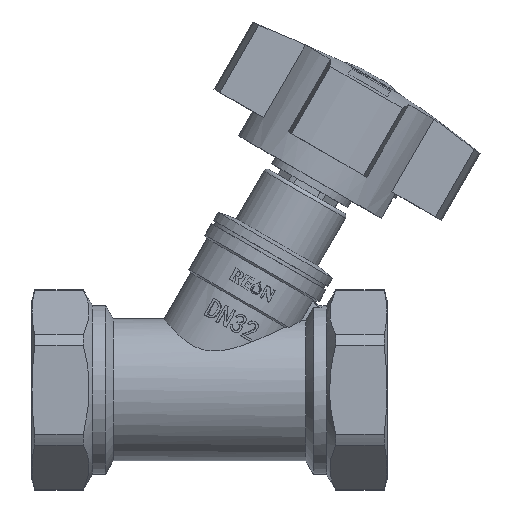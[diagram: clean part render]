
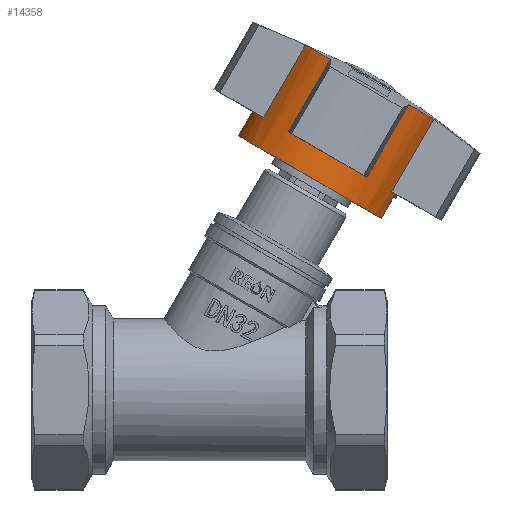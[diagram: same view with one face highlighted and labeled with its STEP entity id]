
A CAD part, top view. The second image highlights one B-rep face of the part: STEP entity #14358.
In plain terms, the highlighted cylindrical face has radius 23 mm (diameter 46 mm), a partial arc.
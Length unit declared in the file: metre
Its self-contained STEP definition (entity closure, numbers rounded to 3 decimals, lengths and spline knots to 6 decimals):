
#1460=CIRCLE('',#15448,0.023);
#1464=CIRCLE('',#15452,0.023);
#1468=CIRCLE('',#15456,0.023);
#1472=CIRCLE('',#15460,0.023);
#1550=CIRCLE('',#15559,0.023);
#1553=CIRCLE('',#15563,0.023);
#1556=CIRCLE('',#15567,0.023);
#1557=CIRCLE('',#15568,0.023);
#1561=CIRCLE('',#15574,0.023);
#1564=CIRCLE('',#15578,0.023);
#2260=FACE_OUTER_BOUND('',#3166,.T.);
#3166=EDGE_LOOP('',(#11583,#11584,#11585,#11586,#11587,#11588,#11589,#11590,
#11591,#11592,#11593,#11594,#11595,#11596,#11597,#11598,#11599,#11600,#11601,
#11602));
#4262=LINE('',#42724,#5135);
#4263=LINE('',#42727,#5136);
#4264=LINE('',#42728,#5137);
#4265=LINE('',#42729,#5138);
#4266=LINE('',#42730,#5139);
#4267=LINE('',#42731,#5140);
#4268=LINE('',#42732,#5141);
#4269=LINE('',#42733,#5142);
#4270=LINE('',#42734,#5143);
#4271=LINE('',#42735,#5144);
#5135=VECTOR('',#18246,1.);
#5136=VECTOR('',#18249,1.);
#5137=VECTOR('',#18250,1.);
#5138=VECTOR('',#18251,1.);
#5139=VECTOR('',#18252,1.);
#5140=VECTOR('',#18253,1.);
#5141=VECTOR('',#18254,1.);
#5142=VECTOR('',#18255,1.);
#5143=VECTOR('',#18256,1.);
#5144=VECTOR('',#18257,1.);
#6286=VERTEX_POINT('',#42376);
#6287=VERTEX_POINT('',#42378);
#6290=VERTEX_POINT('',#42384);
#6291=VERTEX_POINT('',#42386);
#6294=VERTEX_POINT('',#42392);
#6295=VERTEX_POINT('',#42394);
#6298=VERTEX_POINT('',#42400);
#6299=VERTEX_POINT('',#42402);
#6414=VERTEX_POINT('',#42656);
#6415=VERTEX_POINT('',#42658);
#6420=VERTEX_POINT('',#42670);
#6421=VERTEX_POINT('',#42672);
#6426=VERTEX_POINT('',#42684);
#6427=VERTEX_POINT('',#42686);
#6428=VERTEX_POINT('',#42689);
#6429=VERTEX_POINT('',#42691);
#6436=VERTEX_POINT('',#42709);
#6437=VERTEX_POINT('',#42711);
#6442=VERTEX_POINT('',#42723);
#6443=VERTEX_POINT('',#42725);
#8113=EDGE_CURVE('',#6287,#6286,#1460,.T.);
#8117=EDGE_CURVE('',#6291,#6290,#1464,.T.);
#8121=EDGE_CURVE('',#6295,#6294,#1468,.T.);
#8125=EDGE_CURVE('',#6299,#6298,#1472,.T.);
#8244=EDGE_CURVE('',#6415,#6414,#1550,.T.);
#8251=EDGE_CURVE('',#6421,#6420,#1553,.T.);
#8258=EDGE_CURVE('',#6427,#6426,#1556,.T.);
#8261=EDGE_CURVE('',#6429,#6428,#1557,.T.);
#8272=EDGE_CURVE('',#6436,#6437,#1561,.T.);
#8277=EDGE_CURVE('',#6442,#6426,#4262,.T.);
#8278=EDGE_CURVE('',#6443,#6442,#1564,.T.);
#8279=EDGE_CURVE('',#6429,#6443,#4263,.T.);
#8280=EDGE_CURVE('',#6299,#6428,#4264,.T.);
#8281=EDGE_CURVE('',#6298,#6421,#4265,.T.);
#8282=EDGE_CURVE('',#6295,#6420,#4266,.T.);
#8283=EDGE_CURVE('',#6294,#6415,#4267,.T.);
#8284=EDGE_CURVE('',#6291,#6414,#4268,.T.);
#8285=EDGE_CURVE('',#6290,#6436,#4269,.T.);
#8286=EDGE_CURVE('',#6287,#6437,#4270,.T.);
#8287=EDGE_CURVE('',#6286,#6427,#4271,.T.);
#11583=ORIENTED_EDGE('',*,*,#8277,.F.);
#11584=ORIENTED_EDGE('',*,*,#8278,.F.);
#11585=ORIENTED_EDGE('',*,*,#8279,.F.);
#11586=ORIENTED_EDGE('',*,*,#8261,.T.);
#11587=ORIENTED_EDGE('',*,*,#8280,.F.);
#11588=ORIENTED_EDGE('',*,*,#8125,.T.);
#11589=ORIENTED_EDGE('',*,*,#8281,.T.);
#11590=ORIENTED_EDGE('',*,*,#8251,.T.);
#11591=ORIENTED_EDGE('',*,*,#8282,.F.);
#11592=ORIENTED_EDGE('',*,*,#8121,.T.);
#11593=ORIENTED_EDGE('',*,*,#8283,.T.);
#11594=ORIENTED_EDGE('',*,*,#8244,.T.);
#11595=ORIENTED_EDGE('',*,*,#8284,.F.);
#11596=ORIENTED_EDGE('',*,*,#8117,.T.);
#11597=ORIENTED_EDGE('',*,*,#8285,.T.);
#11598=ORIENTED_EDGE('',*,*,#8272,.T.);
#11599=ORIENTED_EDGE('',*,*,#8286,.F.);
#11600=ORIENTED_EDGE('',*,*,#8113,.T.);
#11601=ORIENTED_EDGE('',*,*,#8287,.T.);
#11602=ORIENTED_EDGE('',*,*,#8258,.T.);
#13763=CYLINDRICAL_SURFACE('',#15577,0.023);
#14358=ADVANCED_FACE('',(#2260),#13763,.T.);
#15448=AXIS2_PLACEMENT_3D('',#42379,#17926,#17927);
#15452=AXIS2_PLACEMENT_3D('',#42387,#17934,#17935);
#15456=AXIS2_PLACEMENT_3D('',#42395,#17942,#17943);
#15460=AXIS2_PLACEMENT_3D('',#42403,#17950,#17951);
#15559=AXIS2_PLACEMENT_3D('',#42659,#18189,#18190);
#15563=AXIS2_PLACEMENT_3D('',#42673,#18201,#18202);
#15567=AXIS2_PLACEMENT_3D('',#42687,#18213,#18214);
#15568=AXIS2_PLACEMENT_3D('',#42692,#18217,#18218);
#15574=AXIS2_PLACEMENT_3D('',#42713,#18236,#18237);
#15577=AXIS2_PLACEMENT_3D('',#42722,#18244,#18245);
#15578=AXIS2_PLACEMENT_3D('',#42726,#18247,#18248);
#17926=DIRECTION('center_axis',(-0.5,-0.866,0.));
#17927=DIRECTION('ref_axis',(0.,0.,
-1.));
#17934=DIRECTION('center_axis',(-0.5,-0.866,0.));
#17935=DIRECTION('ref_axis',(0.866,-0.5,0.));
#17942=DIRECTION('center_axis',(-0.5,-0.866,0.));
#17943=DIRECTION('ref_axis',(0.866,-0.5,0.));
#17950=DIRECTION('center_axis',(-0.5,-0.866,0.));
#17951=DIRECTION('ref_axis',(0.,0.,
-1.));
#18189=DIRECTION('center_axis',(-0.5,-0.866,0.));
#18190=DIRECTION('ref_axis',(0.866,-0.5,0.));
#18201=DIRECTION('center_axis',(-0.5,-0.866,0.));
#18202=DIRECTION('ref_axis',(0.866,-0.5,0.));
#18213=DIRECTION('center_axis',(-0.5,-0.866,0.));
#18214=DIRECTION('ref_axis',(0.866,-0.5,0.));
#18217=DIRECTION('center_axis',(-0.5,-0.866,0.));
#18218=DIRECTION('ref_axis',(0.866,-0.5,0.));
#18236=DIRECTION('center_axis',(-0.5,-0.866,0.));
#18237=DIRECTION('ref_axis',(0.866,-0.5,0.));
#18244=DIRECTION('center_axis',(-0.5,-0.866,0.));
#18245=DIRECTION('ref_axis',(-0.866,0.5,0.));
#18246=DIRECTION('',(0.5,0.866,0.));
#18247=DIRECTION('center_axis',(-0.5,-0.866,0.));
#18248=DIRECTION('ref_axis',(0.866,-0.5,0.));
#18249=DIRECTION('',(-0.5,-0.866,0.));
#18250=DIRECTION('',(-0.5,-0.866,0.));
#18251=DIRECTION('',(-0.5,-0.866,0.));
#18252=DIRECTION('',(-0.5,-0.866,0.));
#18253=DIRECTION('',(-0.5,-0.866,0.));
#18254=DIRECTION('',(-0.5,-0.866,0.));
#18255=DIRECTION('',(-0.5,-0.866,0.));
#18256=DIRECTION('',(-0.5,-0.866,0.));
#18257=DIRECTION('',(-0.5,-0.866,0.));
#42376=CARTESIAN_POINT('',(0.059372,0.071677,-0.012));
#42378=CARTESIAN_POINT('',(0.052772,0.075488,-0.019621));
#42379=CARTESIAN_POINT('Origin',(0.04238,0.081488,
0.));
#42384=CARTESIAN_POINT('',(0.031987,0.087488,-0.019621));
#42386=CARTESIAN_POINT('',(0.025387,0.091299,-0.012));
#42387=CARTESIAN_POINT('Origin',(0.04238,0.081488,
0.));
#42392=CARTESIAN_POINT('',(0.025387,0.091299,0.012));
#42394=CARTESIAN_POINT('',(0.031987,0.087488,0.019621));
#42395=CARTESIAN_POINT('Origin',(0.04238,0.081488,
0.));
#42400=CARTESIAN_POINT('',(0.052772,0.075488,0.019621));
#42402=CARTESIAN_POINT('',(0.059372,0.071677,0.012));
#42403=CARTESIAN_POINT('Origin',(0.04238,0.081488,
0.));
#42656=CARTESIAN_POINT('',(0.014291,0.072081,-0.012));
#42658=CARTESIAN_POINT('',(0.014291,0.072081,0.012));
#42659=CARTESIAN_POINT('Origin',(0.031284,0.06227,
0.));
#42670=CARTESIAN_POINT('',(0.020892,0.06827,0.019621));
#42672=CARTESIAN_POINT('',(0.041676,0.05627,0.019621));
#42673=CARTESIAN_POINT('Origin',(0.031284,0.06227,
0.));
#42684=CARTESIAN_POINT('',(0.049221,0.051914,-0.01));
#42686=CARTESIAN_POINT('',(0.048277,0.052459,-0.012));
#42687=CARTESIAN_POINT('Origin',(0.031284,0.06227,
0.));
#42689=CARTESIAN_POINT('',(0.048277,0.052459,0.012));
#42691=CARTESIAN_POINT('',(0.049221,0.051914,0.01));
#42692=CARTESIAN_POINT('Origin',(0.031284,0.06227,
0.));
#42709=CARTESIAN_POINT('',(0.020892,0.06827,-0.019621));
#42711=CARTESIAN_POINT('',(0.041676,0.05627,-0.019621));
#42713=CARTESIAN_POINT('Origin',(0.031284,0.06227,
0.));
#42722=CARTESIAN_POINT('Origin',(0.026534,0.054043,
0.));
#42723=CARTESIAN_POINT('',(0.045471,0.045419,-0.01));
#42724=CARTESIAN_POINT('',(0.044471,0.043687,-0.01));
#42725=CARTESIAN_POINT('',(0.045471,0.045419,0.01));
#42726=CARTESIAN_POINT('Origin',(0.027534,0.055775,
0.));
#42727=CARTESIAN_POINT('',(0.044471,0.043687,0.01));
#42728=CARTESIAN_POINT('',(0.060027,0.072811,0.012));
#42729=CARTESIAN_POINT('',(0.053426,0.076622,0.019621));
#42730=CARTESIAN_POINT('',(0.032642,0.088622,0.019621));
#42731=CARTESIAN_POINT('',(0.026041,0.092432,0.012));
#42732=CARTESIAN_POINT('',(0.026041,0.092432,-0.012));
#42733=CARTESIAN_POINT('',(0.032642,0.088622,-0.019621));
#42734=CARTESIAN_POINT('',(0.053426,0.076622,-0.019621));
#42735=CARTESIAN_POINT('',(0.060027,0.072811,-0.012));
